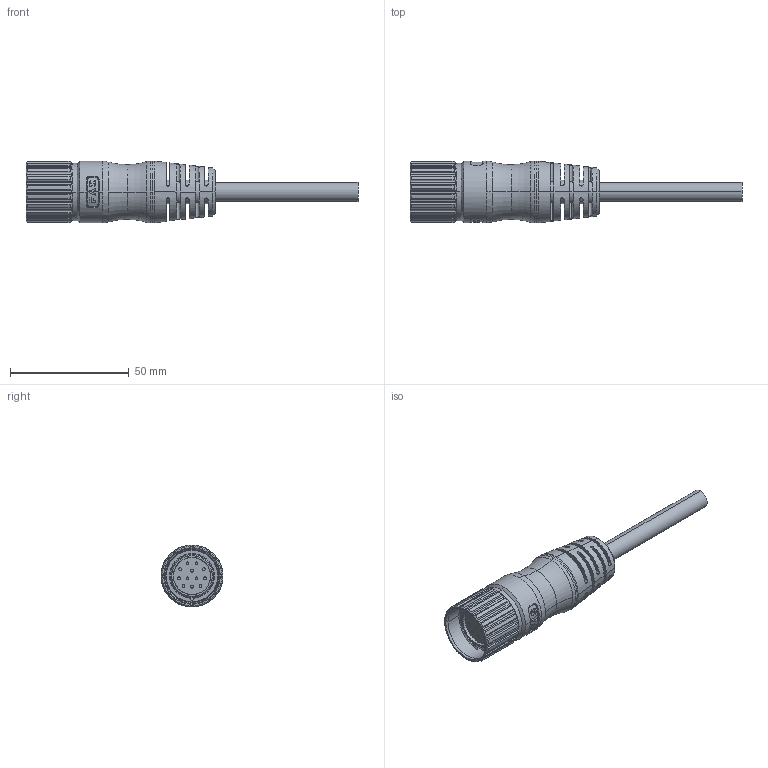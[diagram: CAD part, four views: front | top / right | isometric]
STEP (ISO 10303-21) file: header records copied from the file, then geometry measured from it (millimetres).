
FILE_DESCRIPTION (( 'STEP AP203' ), '1' );
FILE_NAME ('68BB21.STEP', '2024-09-30T08:49:35', ( 'L' ), ( '' ), 'SwSTEP 2.0', 'SolidWorks 2019', '' );
FILE_SCHEMA (( 'CONFIG_CONTROL_DESIGN' ));
Products named in the file (1): 68BB21
Bounding box: 139.5 x 26 x 26 mm (x, y, z)
Volume: 33521.9 mm3; surface area: 16718.1 mm2
Topology: 2 solids, 2 shells, 1005 faces, 2734 edges, 1749 vertices
Faces by surface type: cylinder 388, plane 364, cone 133, torus 80, bspline 28, sphere 12
Entity records: 40792 total; most frequent: CARTESIAN_POINT 17133, ORIENTED_EDGE 5456, DIRECTION 4421, EDGE_CURVE 2728, AXIS2_PLACEMENT_3D 1944, VERTEX_POINT 1749, B_SPLINE_CURVE_WITH_KNOTS 1118, EDGE_LOOP 1065
